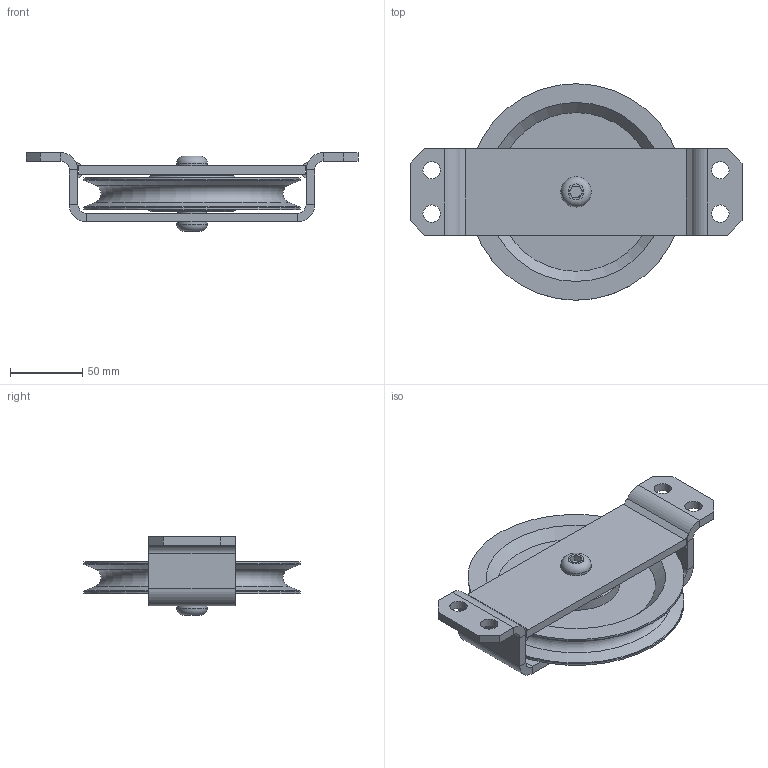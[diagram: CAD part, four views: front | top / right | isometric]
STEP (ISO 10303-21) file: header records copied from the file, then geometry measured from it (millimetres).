
FILE_DESCRIPTION(/* description */ ('Seilrolle ø150 Seitenbefestigung Gleitlager'),/* implementation_level */ '2;1');
FILE_NAME(/* name */ 'Z:\Workspace\03 Seilrollen\1.407 Seilrollen Seitenbefestigung Gleitlager\1.407.05 Seilrolle ø150 Seitenbefestigung Gleitlager\1.407.05 Seilrolle ø150 Seitenbefestigung Gleitlager.stp',/* time_stamp */ '2021-10-11T08:37:11+02:00',/* author */ ('cad-user'),/* organization */ (''),/* preprocessor_version */ 'ST-DEVELOPER v18',/* originating_system */ 'Autodesk Inventor 2020',/* authorisation */ '');
FILE_SCHEMA (('AUTOMOTIVE_DESIGN { 1 0 10303 214 3 1 1 }'));
Length unit declared in the file: millimetre
Products named in the file (10): 1.407.05 Seilrolle ø150 Seitenbefestigung Gleitlage
r; 1.407.05.00 Seitenbefestigung SR ø150; 1.407.05.00 Seitenbefestigung SR ø150_1; 1.407.05.01 Blech 1; 1.407.05.02 Blech 2; 1.401.05 Seilrolle ø150 Buchse komplett ; 1.401.05 Seilrolle ø150 Buchse ; Lagerbuchse 2025-DU; 1.405.05.02 Achse; ISO 7380 - M12 x 16
Assembly tree (10 placements, depth 3):
  1.407.05 Seilrolle ø150 Seitenbefestigung Gleitlage
r
    1.407.05.00 Seitenbefestigung SR ø150
      1.407.05.00 Seitenbefestigung SR ø150_1
      1.407.05.01 Blech 1
      1.407.05.02 Blech 2
    1.401.05 Seilrolle ø150 Buchse komplett 
      1.401.05 Seilrolle ø150 Buchse 
      Lagerbuchse 2025-DU
    1.405.05.02 Achse
    ISO 7380 - M12 x 16  x2
Bounding box: 230 x 150 x 54.6 mm (x, y, z)
Volume: 381643.9 mm3; surface area: 130332.5 mm2
Topology: 11 solids, 11 shells, 137 faces, 326 edges, 215 vertices
Faces by surface type: plane 88, cylinder 30, cone 12, torus 7
Full cylindrical faces by diameter (mm): 10.106 x1, 12 x6, 13 x2, 20 x1, 21 x2, 23 x1, 60 x2, 150 x2
Entity records: 3887 total; most frequent: DIRECTION 670, CARTESIAN_POINT 634, ORIENTED_EDGE 568, EDGE_CURVE 284, AXIS2_PLACEMENT_3D 255, VERTEX_POINT 186, LINE 160, VECTOR 160
